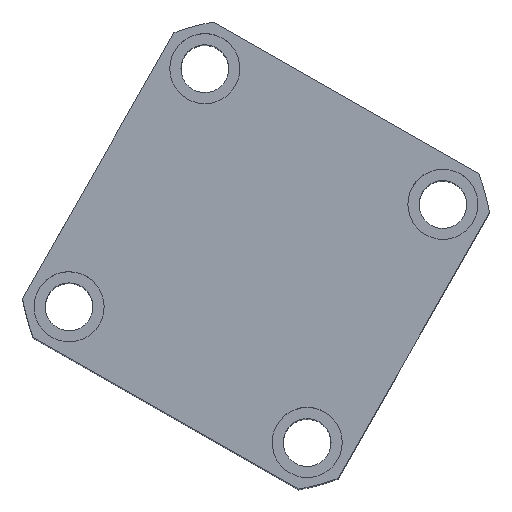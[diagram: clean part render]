
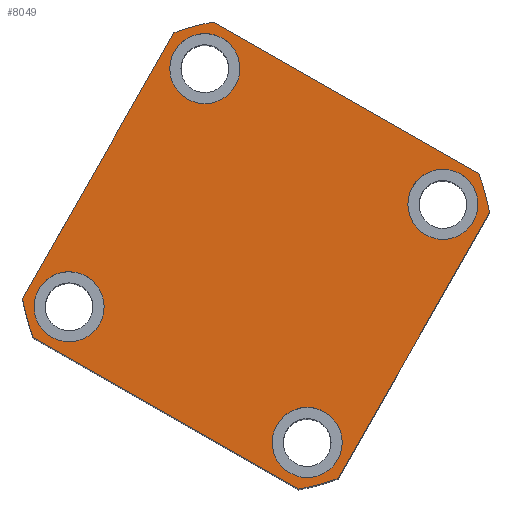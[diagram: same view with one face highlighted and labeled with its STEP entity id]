
A CAD part, top view. The second image highlights one B-rep face of the part: STEP entity #8049.
In plain terms, the highlighted planar face has unit normal (0, 0, 1) as drawn and (0, 0, -1) by its records, which use the part's own axes.
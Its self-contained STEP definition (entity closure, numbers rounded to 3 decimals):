
#137 = CARTESIAN_POINT ( 'NONE',  ( 43., 43., 0. ) ) ;
#199 = DIRECTION ( 'NONE',  ( -1., 0., 0. ) ) ;
#287 = DIRECTION ( 'NONE',  ( 0., 0., 1. ) ) ;
#334 = EDGE_CURVE ( 'NONE', #10945, #7096, #525, .T. ) ;
#405 = DIRECTION ( 'NONE',  ( 0., 0., -1. ) ) ;
#525 = CIRCLE ( 'NONE', #5921, 11. ) ;
#627 = CIRCLE ( 'NONE', #6783, 11. ) ;
#677 = CARTESIAN_POINT ( 'NONE',  ( 0., 0., 0. ) ) ;
#723 = AXIS2_PLACEMENT_3D ( 'NONE', #6482, #14726, #7688 ) ;
#745 = CARTESIAN_POINT ( 'NONE',  ( -57., -57., 0. ) ) ;
#868 = ORIENTED_EDGE ( 'NONE', *, *, #6282, .F. ) ;
#1140 = FACE_BOUND ( 'NONE', #10597, .T. ) ;
#1294 = DIRECTION ( 'NONE',  ( -1., 0., 0. ) ) ;
#1526 = EDGE_LOOP ( 'NONE', ( #3805, #12654, #6562, #12252, #10130, #10528, #8127, #9426 ) ) ;
#1698 = CARTESIAN_POINT ( 'NONE',  ( -47.971, 57., 0. ) ) ;
#1848 = DIRECTION ( 'NONE',  ( 1., 0., 0. ) ) ;
#2028 = VERTEX_POINT ( 'NONE', #14642 ) ;
#2084 = CARTESIAN_POINT ( 'NONE',  ( -43., -43., 0. ) ) ;
#2264 = EDGE_CURVE ( 'NONE', #7096, #10945, #2367, .T. ) ;
#2367 = CIRCLE ( 'NONE', #7319, 11. ) ;
#2539 = DIRECTION ( 'NONE',  ( 0., 0., -1. ) ) ;
#2552 = VERTEX_POINT ( 'NONE', #10946 ) ;
#2740 = EDGE_CURVE ( 'NONE', #3987, #2552, #12262, .T. ) ;
#2841 = LINE ( 'NONE', #4911, #5626 ) ;
#3170 = VECTOR ( 'NONE', #3636, 1000. ) ;
#3283 = DIRECTION ( 'NONE',  ( -1., 0., 0. ) ) ;
#3379 = CIRCLE ( 'NONE', #9594, 11. ) ;
#3440 = CARTESIAN_POINT ( 'NONE',  ( -43., -43., 0. ) ) ;
#3527 = CARTESIAN_POINT ( 'NONE',  ( 57., 57., 0. ) ) ;
#3596 = AXIS2_PLACEMENT_3D ( 'NONE', #677, #8940, #1848 ) ;
#3636 = DIRECTION ( 'NONE',  ( 0., 1., 0. ) ) ;
#3805 = ORIENTED_EDGE ( 'NONE', *, *, #10776, .F. ) ;
#3987 = VERTEX_POINT ( 'NONE', #14303 ) ;
#4192 = DIRECTION ( 'NONE',  ( 0., 0., -1. ) ) ;
#4242 = DIRECTION ( 'NONE',  ( -1., 0., 0. ) ) ;
#4259 = FACE_BOUND ( 'NONE', #9502, .T. ) ;
#4396 = CARTESIAN_POINT ( 'NONE',  ( 0., 0., 0. ) ) ;
#4406 = DIRECTION ( 'NONE',  ( 0., 0., -1. ) ) ;
#4911 = CARTESIAN_POINT ( 'NONE',  ( -57., 57., 0. ) ) ;
#5343 = CARTESIAN_POINT ( 'NONE',  ( 32., 43., 0. ) ) ;
#5390 = DIRECTION ( 'NONE',  ( 0., 0., 1. ) ) ;
#5582 = DIRECTION ( 'NONE',  ( 1., 0., 0. ) ) ;
#5626 = VECTOR ( 'NONE', #199, 1000. ) ;
#5741 = ORIENTED_EDGE ( 'NONE', *, *, #6948, .F. ) ;
#5921 = AXIS2_PLACEMENT_3D ( 'NONE', #3440, #4192, #4242 ) ;
#6104 = LINE ( 'NONE', #10373, #8888 ) ;
#6282 = EDGE_CURVE ( 'NONE', #12651, #10817, #3379, .T. ) ;
#6417 = AXIS2_PLACEMENT_3D ( 'NONE', #7453, #405, #8663 ) ;
#6435 = ORIENTED_EDGE ( 'NONE', *, *, #334, .F. ) ;
#6482 = CARTESIAN_POINT ( 'NONE',  ( 0., 0., 0. ) ) ;
#6531 = CARTESIAN_POINT ( 'NONE',  ( 54., 43., 0. ) ) ;
#6562 = ORIENTED_EDGE ( 'NONE', *, *, #15212, .F. ) ;
#6595 = CARTESIAN_POINT ( 'NONE',  ( 47.971, 57., 0. ) ) ;
#6603 = DIRECTION ( 'NONE',  ( 1., 0., 0. ) ) ;
#6661 = LINE ( 'NONE', #745, #12554 ) ;
#6775 = VERTEX_POINT ( 'NONE', #6531 ) ;
#6783 = AXIS2_PLACEMENT_3D ( 'NONE', #9618, #2539, #10782 ) ;
#6916 = VERTEX_POINT ( 'NONE', #13987 ) ;
#6948 = EDGE_CURVE ( 'NONE', #7672, #6916, #12573, .T. ) ;
#7001 = DIRECTION ( 'NONE',  ( 0., 0., -1. ) ) ;
#7028 = CARTESIAN_POINT ( 'NONE',  ( -43., 43., 0. ) ) ;
#7041 = AXIS2_PLACEMENT_3D ( 'NONE', #4396, #12632, #5582 ) ;
#7055 = FACE_OUTER_BOUND ( 'NONE', #1526, .T. ) ;
#7096 = VERTEX_POINT ( 'NONE', #7420 ) ;
#7319 = AXIS2_PLACEMENT_3D ( 'NONE', #2084, #10341, #3283 ) ;
#7330 = CARTESIAN_POINT ( 'NONE',  ( 0., 0., 0. ) ) ;
#7394 = FACE_BOUND ( 'NONE', #10941, .T. ) ;
#7420 = CARTESIAN_POINT ( 'NONE',  ( -54., -43., 0. ) ) ;
#7441 = CIRCLE ( 'NONE', #9672, 74.5 ) ;
#7453 = CARTESIAN_POINT ( 'NONE',  ( 43., -43., 0. ) ) ;
#7485 = ORIENTED_EDGE ( 'NONE', *, *, #7634, .F. ) ;
#7634 = EDGE_CURVE ( 'NONE', #10817, #12651, #9284, .T. ) ;
#7672 = VERTEX_POINT ( 'NONE', #12894 ) ;
#7688 = DIRECTION ( 'NONE',  ( 1., 0., 0. ) ) ;
#7949 = CARTESIAN_POINT ( 'NONE',  ( 57., 47.971, 0. ) ) ;
#7989 = CIRCLE ( 'NONE', #9861, 11. ) ;
#8049 = ADVANCED_FACE ( 'NONE', ( #13279, #1140, #7394, #4259, #7055 ), #13534, .F. ) ;
#8127 = ORIENTED_EDGE ( 'NONE', *, *, #8769, .F. ) ;
#8148 = EDGE_CURVE ( 'NONE', #2552, #14576, #6661, .T. ) ;
#8223 = DIRECTION ( 'NONE',  ( -1., 0., 0. ) ) ;
#8349 = VERTEX_POINT ( 'NONE', #13170 ) ;
#8380 = DIRECTION ( 'NONE',  ( 0., 0., -1. ) ) ;
#8492 = CARTESIAN_POINT ( 'NONE',  ( -32., 43., 0. ) ) ;
#8531 = DIRECTION ( 'NONE',  ( 1., 0., 0. ) ) ;
#8583 = AXIS2_PLACEMENT_3D ( 'NONE', #7330, #287, #8531 ) ;
#8663 = DIRECTION ( 'NONE',  ( -1., 0., 0. ) ) ;
#8769 = EDGE_CURVE ( 'NONE', #10196, #8349, #13745, .T. ) ;
#8885 = CARTESIAN_POINT ( 'NONE',  ( -32., -43., 0. ) ) ;
#8888 = VECTOR ( 'NONE', #11550, 1000. ) ;
#8940 = DIRECTION ( 'NONE',  ( 0., 0., 1. ) ) ;
#9284 = CIRCLE ( 'NONE', #14707, 11. ) ;
#9377 = ORIENTED_EDGE ( 'NONE', *, *, #11385, .F. ) ;
#9391 = EDGE_CURVE ( 'NONE', #6916, #7672, #13522, .T. ) ;
#9426 = ORIENTED_EDGE ( 'NONE', *, *, #10725, .F. ) ;
#9502 = EDGE_LOOP ( 'NONE', ( #868, #7485 ) ) ;
#9594 = AXIS2_PLACEMENT_3D ( 'NONE', #11464, #4406, #12645 ) ;
#9618 = CARTESIAN_POINT ( 'NONE',  ( 43., 43., 0. ) ) ;
#9636 = ORIENTED_EDGE ( 'NONE', *, *, #2264, .F. ) ;
#9672 = AXIS2_PLACEMENT_3D ( 'NONE', #12437, #5390, #13617 ) ;
#9842 = EDGE_LOOP ( 'NONE', ( #9636, #6435 ) ) ;
#9861 = AXIS2_PLACEMENT_3D ( 'NONE', #137, #8380, #1294 ) ;
#9947 = CARTESIAN_POINT ( 'NONE',  ( -54., 43., 0. ) ) ;
#10130 = ORIENTED_EDGE ( 'NONE', *, *, #2740, .F. ) ;
#10196 = VERTEX_POINT ( 'NONE', #1698 ) ;
#10341 = DIRECTION ( 'NONE',  ( 0., 0., -1. ) ) ;
#10361 = ORIENTED_EDGE ( 'NONE', *, *, #9391, .F. ) ;
#10373 = CARTESIAN_POINT ( 'NONE',  ( -57., 57., 0. ) ) ;
#10528 = ORIENTED_EDGE ( 'NONE', *, *, #12988, .F. ) ;
#10597 = EDGE_LOOP ( 'NONE', ( #5741, #10361 ) ) ;
#10725 = EDGE_CURVE ( 'NONE', #11031, #10196, #2841, .T. ) ;
#10734 = CARTESIAN_POINT ( 'NONE',  ( 47.971, -57., 0. ) ) ;
#10776 = EDGE_CURVE ( 'NONE', #12977, #11031, #11896, .T. ) ;
#10782 = DIRECTION ( 'NONE',  ( -1., 0., 0. ) ) ;
#10817 = VERTEX_POINT ( 'NONE', #8492 ) ;
#10941 = EDGE_LOOP ( 'NONE', ( #9377, #14481 ) ) ;
#10945 = VERTEX_POINT ( 'NONE', #8885 ) ;
#10946 = CARTESIAN_POINT ( 'NONE',  ( -47.971, -57., 0. ) ) ;
#11031 = VERTEX_POINT ( 'NONE', #6595 ) ;
#11385 = EDGE_CURVE ( 'NONE', #14145, #6775, #7989, .T. ) ;
#11464 = CARTESIAN_POINT ( 'NONE',  ( -43., 43., 0. ) ) ;
#11550 = DIRECTION ( 'NONE',  ( 0., -1., 0. ) ) ;
#11896 = CIRCLE ( 'NONE', #8583, 74.5 ) ;
#12187 = EDGE_CURVE ( 'NONE', #2028, #12977, #12563, .T. ) ;
#12252 = ORIENTED_EDGE ( 'NONE', *, *, #8148, .F. ) ;
#12262 = CIRCLE ( 'NONE', #7041, 74.5 ) ;
#12437 = CARTESIAN_POINT ( 'NONE',  ( 0., 0., 0. ) ) ;
#12554 = VECTOR ( 'NONE', #6603, 1000. ) ;
#12563 = LINE ( 'NONE', #3527, #3170 ) ;
#12573 = CIRCLE ( 'NONE', #15034, 11. ) ;
#12632 = DIRECTION ( 'NONE',  ( 0., 0., 1. ) ) ;
#12645 = DIRECTION ( 'NONE',  ( -1., 0., 0. ) ) ;
#12651 = VERTEX_POINT ( 'NONE', #9947 ) ;
#12654 = ORIENTED_EDGE ( 'NONE', *, *, #12187, .F. ) ;
#12894 = CARTESIAN_POINT ( 'NONE',  ( 32., -43., 0. ) ) ;
#12977 = VERTEX_POINT ( 'NONE', #7949 ) ;
#12988 = EDGE_CURVE ( 'NONE', #8349, #3987, #6104, .T. ) ;
#13170 = CARTESIAN_POINT ( 'NONE',  ( -57., 47.971, 0. ) ) ;
#13279 = FACE_BOUND ( 'NONE', #9842, .T. ) ;
#13522 = CIRCLE ( 'NONE', #6417, 11. ) ;
#13534 = PLANE ( 'NONE',  #723 ) ;
#13617 = DIRECTION ( 'NONE',  ( 1., 0., 0. ) ) ;
#13745 = CIRCLE ( 'NONE', #3596, 74.5 ) ;
#13987 = CARTESIAN_POINT ( 'NONE',  ( 54., -43., 0. ) ) ;
#14030 = CARTESIAN_POINT ( 'NONE',  ( 43., -43., 0. ) ) ;
#14145 = VERTEX_POINT ( 'NONE', #5343 ) ;
#14303 = CARTESIAN_POINT ( 'NONE',  ( -57., -47.971, 0. ) ) ;
#14481 = ORIENTED_EDGE ( 'NONE', *, *, #14615, .F. ) ;
#14576 = VERTEX_POINT ( 'NONE', #10734 ) ;
#14615 = EDGE_CURVE ( 'NONE', #6775, #14145, #627, .T. ) ;
#14642 = CARTESIAN_POINT ( 'NONE',  ( 57., -47.971, 0. ) ) ;
#14707 = AXIS2_PLACEMENT_3D ( 'NONE', #7028, #15265, #8223 ) ;
#14726 = DIRECTION ( 'NONE',  ( 0., 0., 1. ) ) ;
#15034 = AXIS2_PLACEMENT_3D ( 'NONE', #14030, #7001, #15230 ) ;
#15212 = EDGE_CURVE ( 'NONE', #14576, #2028, #7441, .T. ) ;
#15230 = DIRECTION ( 'NONE',  ( -1., 0., 0. ) ) ;
#15265 = DIRECTION ( 'NONE',  ( 0., 0., -1. ) ) ;
